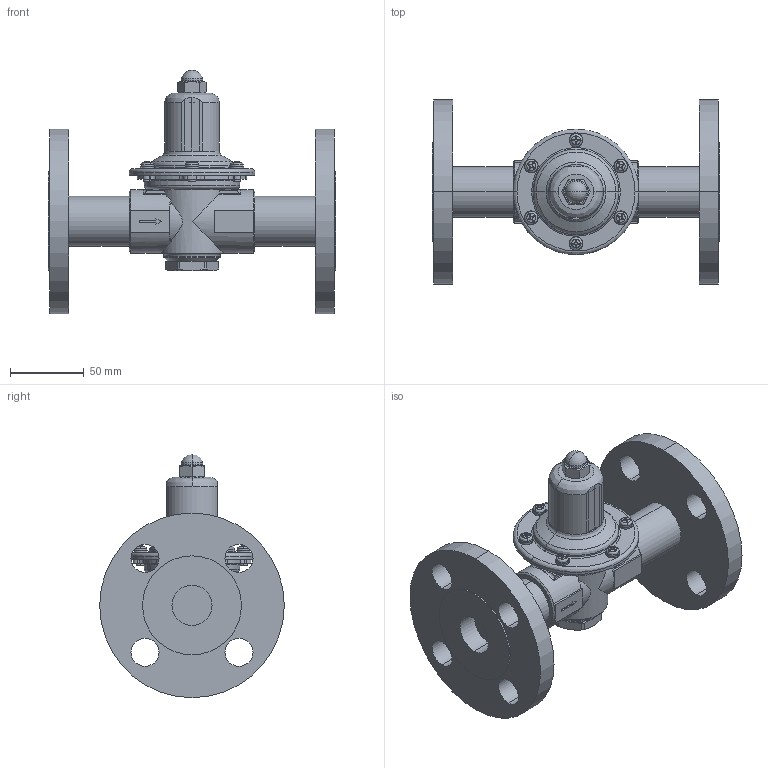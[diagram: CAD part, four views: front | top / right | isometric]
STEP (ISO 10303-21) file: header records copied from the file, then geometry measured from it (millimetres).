
FILE_DESCRIPTION( (''), '2;1');
FILE_NAME ('PC1276.6256.GD-43-10 (25A RF)_30454.stp','2026-01-15T14:30:26',(''),(''),'spGate 20.6.3 (****-****-****-****)','','');
FILE_SCHEMA (('AUTOMOTIVE_DESIGN'));
Length unit declared in the file: millimetre
Products named in the file (8): Assembly; ばねかばー; 袋ナット; 下部キャップ; なべこねじ(Ｍ5-10); スプリング座金; ダイヤフラム; GD-41 25A
Assembly tree (17 placements, depth 2):
  Assembly
    ばねかばー
    袋ナット
    下部キャップ
    なべこねじ(Ｍ5-10)  x6
    スプリング座金  x6
    ダイヤフラム
    GD-41 25A
Bounding box: 195 x 125 x 164.75 mm (x, y, z)
Volume: 552103.7 mm3; surface area: 138691.6 mm2
Topology: 17 solids, 17 shells, 637 faces, 1606 edges, 1025 vertices
Faces by surface type: plane 261, cylinder 240, bspline 120, sphere 16
Entity records: 26307 total; most frequent: CARTESIAN_POINT 5626, ORIENTED_EDGE 2404, DIRECTION 2208, COLOUR_RGB 1681, PRESENTATION_STYLE_ASSIGNMENT 1681, STYLED_ITEM 1681, EDGE_CURVE 1202, DRAUGHTING_PRE_DEFINED_CURVE_FONT 1202
